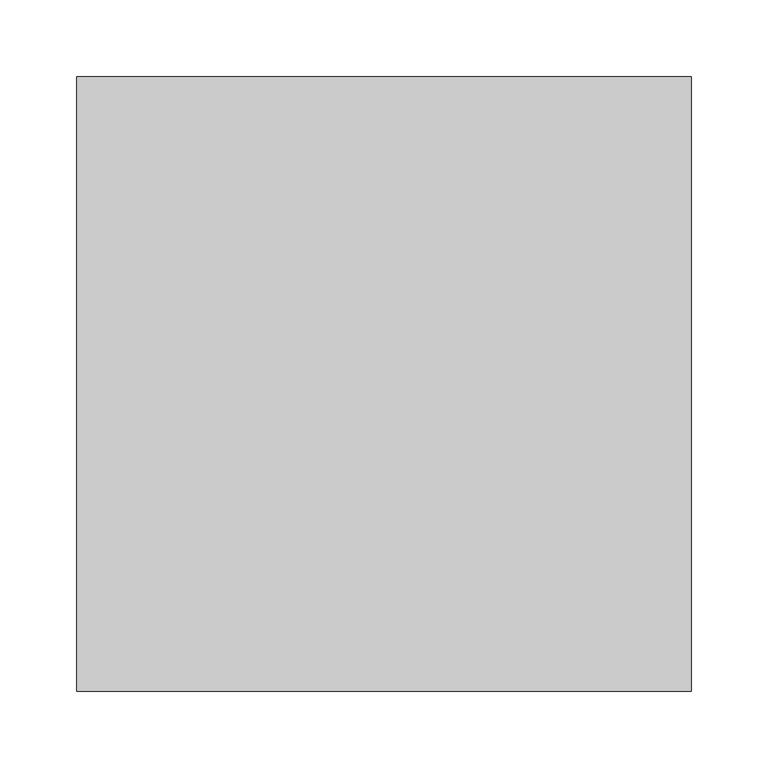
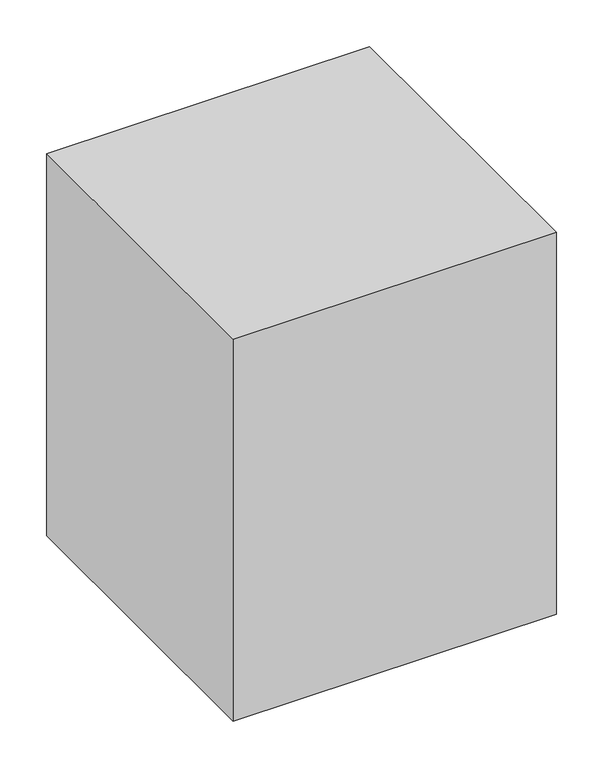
"""IFC4 building model written with IfcOpenShell, lengths in millimetres: furniture geometry, Fu_тумба прикроватная_LEG : 400х400."""

from ifc_helpers import new_model, si_unit, origin, origin_with_axes, place, context, project, spatial, polyline, outline, extrude, source, transform, mapped, element, save


def furniture_5b53418c(model_context):
    return source(origin(), model_context, "Body", "SweptSolid", [
        extrude(outline(polyline([(200.0, 200.0), (200.0, -200.0), (-200.0, -200.0), (-200.0, 200.0), (200.0, 200.0)])), origin_with_axes(), (0.0, 0.0, 1.0), 500.0),
    ])


if __name__ == "__main__":
    model = new_model("IFC4")
    model_context = context("Model", 3, world=origin())
    ifc_project = project(units=[si_unit("LENGTHUNIT", "METRE", prefix="MILLI")], contexts=[model_context])
    site = spatial("IfcSite", under=ifc_project)
    building = spatial("IfcBuilding", under=site)
    placement = place(None, origin())
    furniture_shape = furniture_5b53418c(model_context)
    element("IfcFurniture", 1, ObjectType="Fu_тумба прикроватная_LEG : 400х400", at=placement, inside=building, context=model_context, shape_type="MappedRepresentation", body=[
        mapped(furniture_shape, transform((0.0, 0.0, 0.0), x_axis=(1.0, 0.0, 0.0), y_axis=(0.0, 1.0, 0.0), z_axis=(0.0, 0.0, 1.0))),
    ])
    save(model, "model.ifc")
